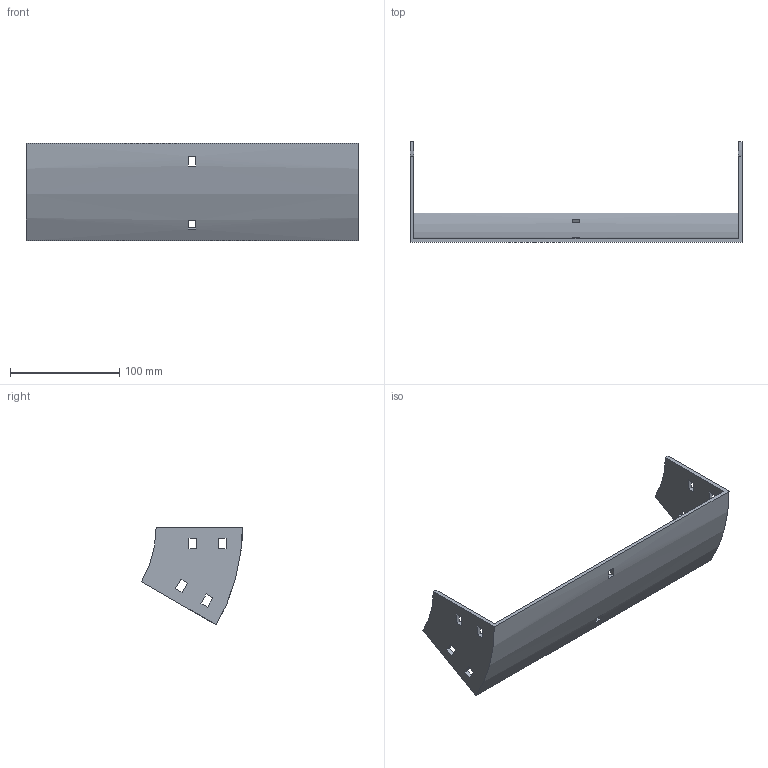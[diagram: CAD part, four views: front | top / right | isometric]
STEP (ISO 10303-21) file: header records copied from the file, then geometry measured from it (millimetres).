
FILE_DESCRIPTION (( 'STEP AP214' ), '1' );
FILE_NAME ('32B1C300.step', '2025-02-21T09:44:48', ( '' ), ( '' ), 'SwSTEP 2.0', 'SolidWorks 2023', '' );
FILE_SCHEMA (( 'AUTOMOTIVE_DESIGN' ));
Length unit declared in the file: millimetre
Products named in the file (1): 32B1C300
Bounding box: 304 x 92.4 x 89.5 mm (x, y, z)
Volume: 134494.7 mm3; surface area: 81582 mm2
Topology: 1 solids, 1 shells, 50 faces, 144 edges, 96 vertices
Faces by surface type: plane 46, cylinder 4
Entity records: 1687 total; most frequent: CARTESIAN_POINT 291, ORIENTED_EDGE 288, DIRECTION 262, EDGE_CURVE 144, VECTOR 128, LINE 128, VERTEX_POINT 96, EDGE_LOOP 70
